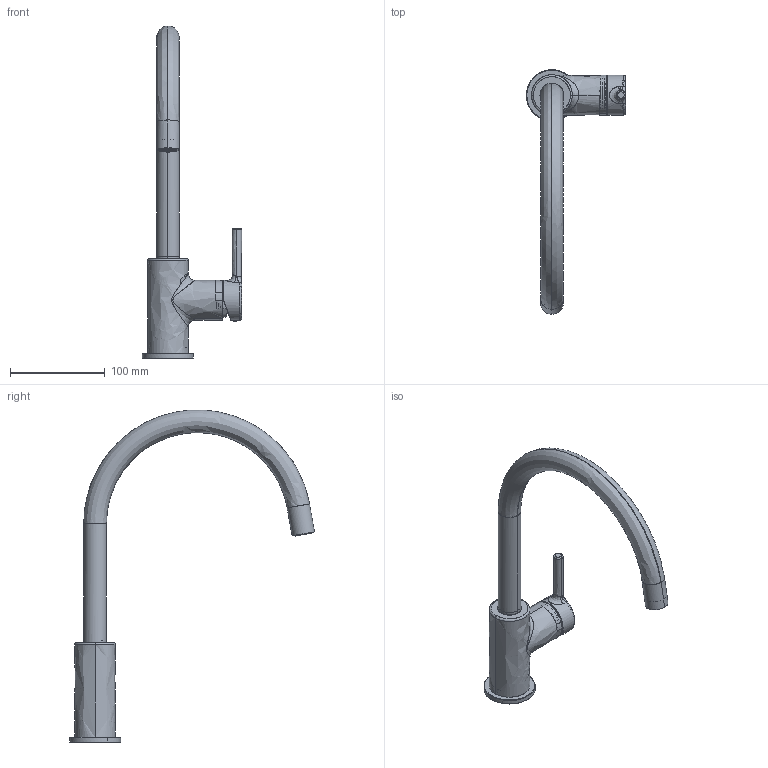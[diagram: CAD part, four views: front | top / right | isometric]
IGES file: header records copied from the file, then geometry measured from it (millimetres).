
Global section: file name: F:\_CONVERSIONE_CAD_2024_2025\PACCHETTI_2026\NUOVI_PACCHETTI_LUGLIO\PRIORITY_3\3D001_Taps_Lina_J-Swivel-XL-Colors\3D001_Taps_Lina_J-Swivel-XL-Colors.igs; native system: Rhinoceros ( May  6 2026 ); preprocessor: Trout Lake IGES 012 May  6 2026; date: 260806.093423; units: millimetre
Bounding box: 104.96 x 258.8 x 350.9 mm (x, y, z)
Surface area: 135105.3 mm2 (no closed solid volume)
Topology: 0 solids, 0 shells, 2070 faces, 11140 edges, 11138 vertices
Faces by surface type: bspline 2070
